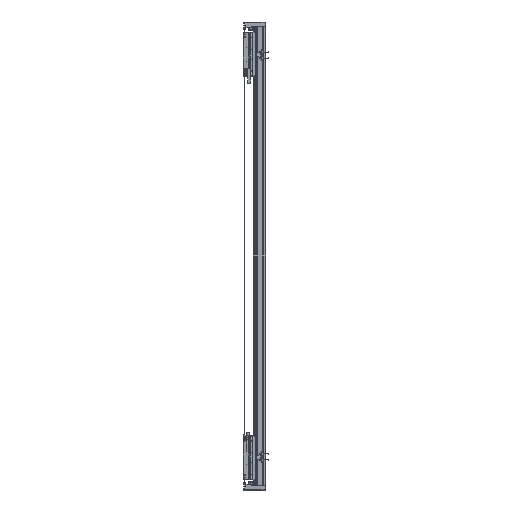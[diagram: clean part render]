
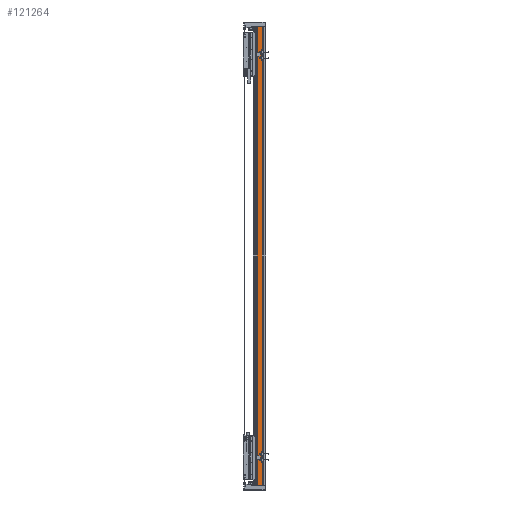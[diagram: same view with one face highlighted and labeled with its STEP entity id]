
A CAD part, left-side view. The second image highlights one B-rep face of the part: STEP entity #121264.
In plain terms, the highlighted planar face has unit normal (-1, 0, 0).
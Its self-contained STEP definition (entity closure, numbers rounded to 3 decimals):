
#1893 = EDGE_CURVE ( 'NONE', #103897, #87023, #15339, .T. ) ;
#4321 = DIRECTION ( 'NONE',  ( 0., 1., 0. ) ) ;
#10270 = LINE ( 'NONE', #31121, #35790 ) ;
#10668 = ORIENTED_EDGE ( 'NONE', *, *, #67101, .T. ) ;
#12319 = ORIENTED_EDGE ( 'NONE', *, *, #73523, .F. ) ;
#12352 = VECTOR ( 'NONE', #60112, 1000. ) ;
#14215 = VERTEX_POINT ( 'NONE', #81253 ) ;
#15339 = LINE ( 'NONE', #81771, #101051 ) ;
#17907 = LINE ( 'NONE', #94793, #24136 ) ;
#20318 = EDGE_LOOP ( 'NONE', ( #87013, #27290, #12319, #10668 ) ) ;
#21077 = FACE_OUTER_BOUND ( 'NONE', #20318, .T. ) ;
#24136 = VECTOR ( 'NONE', #27136, 1000. ) ;
#27136 = DIRECTION ( 'NONE',  ( 0., -1., 0. ) ) ;
#27290 = ORIENTED_EDGE ( 'NONE', *, *, #47508, .F. ) ;
#29101 = DIRECTION ( 'NONE',  ( 1., 0., 0. ) ) ;
#31121 = CARTESIAN_POINT ( 'NONE',  ( -82.5, 14.45, 990. ) ) ;
#35790 = VECTOR ( 'NONE', #76075, 1000. ) ;
#47508 = EDGE_CURVE ( 'NONE', #14215, #87023, #10270, .T. ) ;
#51677 = PLANE ( 'NONE',  #58341 ) ;
#58341 = AXIS2_PLACEMENT_3D ( 'NONE', #94953, #29101, #4321 ) ;
#60112 = DIRECTION ( 'NONE',  ( 0., 0., -1. ) ) ;
#67101 = EDGE_CURVE ( 'NONE', #103090, #103897, #79773, .T. ) ;
#73523 = EDGE_CURVE ( 'NONE', #103090, #14215, #17907, .T. ) ;
#76075 = DIRECTION ( 'NONE',  ( 0., 0., -1. ) ) ;
#79773 = LINE ( 'NONE', #80987, #12352 ) ;
#80987 = CARTESIAN_POINT ( 'NONE',  ( -82.5, 36.95, 990. ) ) ;
#81253 = CARTESIAN_POINT ( 'NONE',  ( -82.5, 14.45, 990. ) ) ;
#81771 = CARTESIAN_POINT ( 'NONE',  ( -82.5, 36.95, -990. ) ) ;
#87013 = ORIENTED_EDGE ( 'NONE', *, *, #1893, .T. ) ;
#87023 = VERTEX_POINT ( 'NONE', #115500 ) ;
#94793 = CARTESIAN_POINT ( 'NONE',  ( -82.5, 36.95, 990. ) ) ;
#94953 = CARTESIAN_POINT ( 'NONE',  ( -82.5, 36.95, 990. ) ) ;
#101051 = VECTOR ( 'NONE', #118103, 1000. ) ;
#103090 = VERTEX_POINT ( 'NONE', #121094 ) ;
#103897 = VERTEX_POINT ( 'NONE', #111221 ) ;
#111221 = CARTESIAN_POINT ( 'NONE',  ( -82.5, 36.95, -990. ) ) ;
#115500 = CARTESIAN_POINT ( 'NONE',  ( -82.5, 14.45, -990. ) ) ;
#118103 = DIRECTION ( 'NONE',  ( 0., -1., 0. ) ) ;
#121094 = CARTESIAN_POINT ( 'NONE',  ( -82.5, 36.95, 990. ) ) ;
#121264 = ADVANCED_FACE ( 'NONE', ( #21077 ), #51677, .F. ) ;
